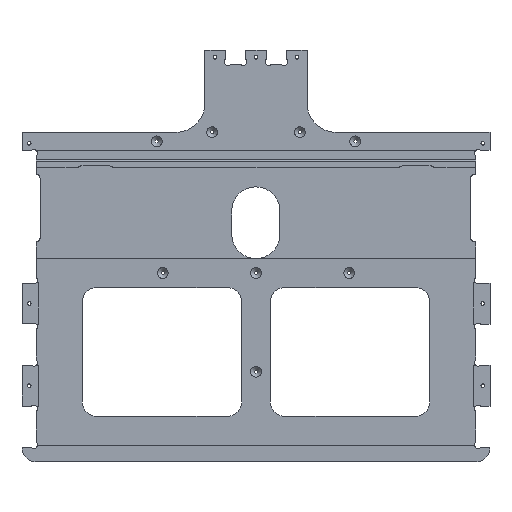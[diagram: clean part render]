
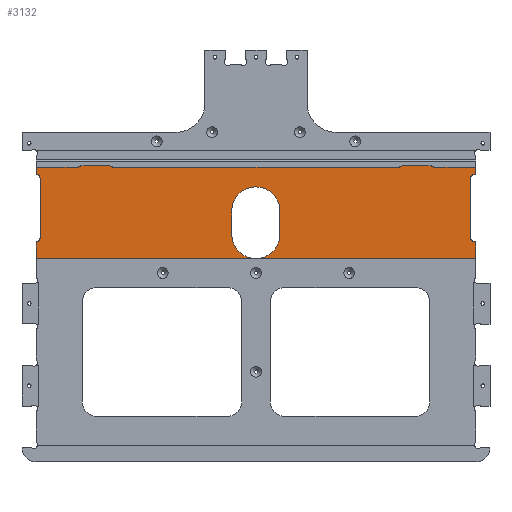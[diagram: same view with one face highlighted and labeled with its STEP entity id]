
A CAD part, top view. The second image highlights one B-rep face of the part: STEP entity #3132.
In plain terms, the highlighted planar face has unit normal (0, 0, 1).
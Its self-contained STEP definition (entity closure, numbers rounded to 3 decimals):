
#105=PLANE('',#3433);
#244=FACE_OUTER_BOUND('',#440,.T.);
#440=EDGE_LOOP('',(#2603,#2604,#2605,#2606,#2607,#2608,#2609,#2610,#2611,
#2612,#2613,#2614,#2615,#2616,#2617,#2618,#2619,#2620,#2621,#2622,#2623,
#2624,#2625,#2626,#2627,#2628,#2629,#2630,#2631,#2632));
#524=LINE('',#4466,#846);
#528=LINE('',#4473,#850);
#588=LINE('',#4702,#910);
#592=LINE('',#4716,#914);
#597=LINE('',#4729,#919);
#599=LINE('',#4732,#921);
#600=LINE('',#4735,#922);
#613=LINE('',#4759,#935);
#717=LINE('',#5092,#1039);
#721=LINE('',#5101,#1043);
#724=LINE('',#5108,#1046);
#727=LINE('',#5117,#1049);
#729=LINE('',#5122,#1051);
#735=LINE('',#5133,#1057);
#736=LINE('',#5136,#1058);
#739=LINE('',#5140,#1061);
#740=LINE('',#5141,#1062);
#741=LINE('',#5142,#1063);
#742=LINE('',#5143,#1064);
#846=VECTOR('',#3539,10.);
#850=VECTOR('',#3545,10.);
#910=VECTOR('',#3721,10.);
#914=VECTOR('',#3733,10.);
#919=VECTOR('',#3746,10.);
#921=VECTOR('',#3750,10.);
#922=VECTOR('',#3753,10.);
#935=VECTOR('',#3772,10.);
#1039=VECTOR('',#4114,10.);
#1043=VECTOR('',#4124,10.);
#1046=VECTOR('',#4133,10.);
#1049=VECTOR('',#4142,10.);
#1051=VECTOR('',#4146,10.);
#1057=VECTOR('',#4158,10.);
#1058=VECTOR('',#4161,10.);
#1061=VECTOR('',#4166,10.);
#1062=VECTOR('',#4167,10.);
#1063=VECTOR('',#4168,10.);
#1064=VECTOR('',#4169,10.);
#1166=CIRCLE('',#3225,20.);
#1167=CIRCLE('',#3226,20.);
#1219=CIRCLE('',#3282,3.);
#1221=CIRCLE('',#3285,3.);
#1223=CIRCLE('',#3289,3.);
#1225=CIRCLE('',#3293,3.);
#1273=CIRCLE('',#3372,20.);
#1287=CIRCLE('',#3420,3.);
#1288=CIRCLE('',#3423,3.);
#1289=CIRCLE('',#3426,3.);
#1290=CIRCLE('',#3430,3.);
#1307=VERTEX_POINT('',#4455);
#1308=VERTEX_POINT('',#4457);
#1309=VERTEX_POINT('',#4459);
#1311=VERTEX_POINT('',#4465);
#1313=VERTEX_POINT('',#4471);
#1419=VERTEX_POINT('',#4686);
#1420=VERTEX_POINT('',#4688);
#1423=VERTEX_POINT('',#4695);
#1424=VERTEX_POINT('',#4697);
#1427=VERTEX_POINT('',#4707);
#1428=VERTEX_POINT('',#4709);
#1430=VERTEX_POINT('',#4715);
#1432=VERTEX_POINT('',#4721);
#1434=VERTEX_POINT('',#4727);
#1435=VERTEX_POINT('',#4734);
#1443=VERTEX_POINT('',#4757);
#1552=VERTEX_POINT('',#5090);
#1553=VERTEX_POINT('',#5091);
#1554=VERTEX_POINT('',#5096);
#1555=VERTEX_POINT('',#5100);
#1556=VERTEX_POINT('',#5104);
#1557=VERTEX_POINT('',#5110);
#1558=VERTEX_POINT('',#5111);
#1559=VERTEX_POINT('',#5116);
#1560=VERTEX_POINT('',#5120);
#1561=VERTEX_POINT('',#5121);
#1562=VERTEX_POINT('',#5126);
#1563=VERTEX_POINT('',#5131);
#1564=VERTEX_POINT('',#5135);
#1609=EDGE_CURVE('',#1308,#1307,#1166,.T.);
#1610=EDGE_CURVE('',#1309,#1308,#1167,.T.);
#1613=EDGE_CURVE('',#1311,#1309,#524,.T.);
#1617=EDGE_CURVE('',#1307,#1313,#528,.T.);
#1724=EDGE_CURVE('',#1420,#1419,#1219,.T.);
#1728=EDGE_CURVE('',#1424,#1423,#1221,.T.);
#1731=EDGE_CURVE('',#1419,#1424,#588,.T.);
#1734=EDGE_CURVE('',#1428,#1427,#1223,.T.);
#1737=EDGE_CURVE('',#1428,#1430,#592,.T.);
#1740=EDGE_CURVE('',#1432,#1430,#1225,.T.);
#1744=EDGE_CURVE('',#1427,#1434,#597,.T.);
#1746=EDGE_CURVE('',#1423,#1432,#599,.T.);
#1747=EDGE_CURVE('',#1435,#1420,#600,.T.);
#1760=EDGE_CURVE('',#1434,#1443,#613,.T.);
#1880=EDGE_CURVE('',#1313,#1311,#1273,.T.);
#1925=EDGE_CURVE('',#1552,#1553,#717,.T.);
#1928=EDGE_CURVE('',#1553,#1554,#1287,.T.);
#1930=EDGE_CURVE('',#1554,#1555,#721,.T.);
#1932=EDGE_CURVE('',#1556,#1552,#1288,.T.);
#1934=EDGE_CURVE('',#1443,#1556,#724,.T.);
#1935=EDGE_CURVE('',#1557,#1558,#1289,.T.);
#1938=EDGE_CURVE('',#1558,#1559,#727,.T.);
#1940=EDGE_CURVE('',#1560,#1561,#729,.T.);
#1943=EDGE_CURVE('',#1561,#1562,#1290,.T.);
#1947=EDGE_CURVE('',#1555,#1563,#735,.T.);
#1948=EDGE_CURVE('',#1560,#1564,#736,.T.);
#1951=EDGE_CURVE('',#1308,#1564,#739,.T.);
#1952=EDGE_CURVE('',#1562,#1557,#740,.T.);
#1953=EDGE_CURVE('',#1435,#1559,#741,.T.);
#1954=EDGE_CURVE('',#1563,#1308,#742,.T.);
#2603=ORIENTED_EDGE('',*,*,#1617,.T.);
#2604=ORIENTED_EDGE('',*,*,#1880,.T.);
#2605=ORIENTED_EDGE('',*,*,#1613,.T.);
#2606=ORIENTED_EDGE('',*,*,#1610,.T.);
#2607=ORIENTED_EDGE('',*,*,#1951,.T.);
#2608=ORIENTED_EDGE('',*,*,#1948,.F.);
#2609=ORIENTED_EDGE('',*,*,#1940,.T.);
#2610=ORIENTED_EDGE('',*,*,#1943,.T.);
#2611=ORIENTED_EDGE('',*,*,#1952,.T.);
#2612=ORIENTED_EDGE('',*,*,#1935,.T.);
#2613=ORIENTED_EDGE('',*,*,#1938,.T.);
#2614=ORIENTED_EDGE('',*,*,#1953,.F.);
#2615=ORIENTED_EDGE('',*,*,#1747,.T.);
#2616=ORIENTED_EDGE('',*,*,#1724,.T.);
#2617=ORIENTED_EDGE('',*,*,#1731,.T.);
#2618=ORIENTED_EDGE('',*,*,#1728,.T.);
#2619=ORIENTED_EDGE('',*,*,#1746,.T.);
#2620=ORIENTED_EDGE('',*,*,#1740,.T.);
#2621=ORIENTED_EDGE('',*,*,#1737,.F.);
#2622=ORIENTED_EDGE('',*,*,#1734,.T.);
#2623=ORIENTED_EDGE('',*,*,#1744,.T.);
#2624=ORIENTED_EDGE('',*,*,#1760,.T.);
#2625=ORIENTED_EDGE('',*,*,#1934,.T.);
#2626=ORIENTED_EDGE('',*,*,#1932,.T.);
#2627=ORIENTED_EDGE('',*,*,#1925,.T.);
#2628=ORIENTED_EDGE('',*,*,#1928,.T.);
#2629=ORIENTED_EDGE('',*,*,#1930,.T.);
#2630=ORIENTED_EDGE('',*,*,#1947,.T.);
#2631=ORIENTED_EDGE('',*,*,#1954,.T.);
#2632=ORIENTED_EDGE('',*,*,#1609,.T.);
#3132=ADVANCED_FACE('',(#244),#105,.T.);
#3225=AXIS2_PLACEMENT_3D('',#4458,#3531,#3532);
#3226=AXIS2_PLACEMENT_3D('',#4460,#3533,#3534);
#3282=AXIS2_PLACEMENT_3D('',#4689,#3707,#3708);
#3285=AXIS2_PLACEMENT_3D('',#4698,#3715,#3716);
#3289=AXIS2_PLACEMENT_3D('',#4710,#3727,#3728);
#3293=AXIS2_PLACEMENT_3D('',#4722,#3739,#3740);
#3372=AXIS2_PLACEMENT_3D('',#4997,#3989,#3990);
#3420=AXIS2_PLACEMENT_3D('',#5097,#4119,#4120);
#3423=AXIS2_PLACEMENT_3D('',#5105,#4128,#4129);
#3426=AXIS2_PLACEMENT_3D('',#5112,#4136,#4137);
#3430=AXIS2_PLACEMENT_3D('',#5127,#4151,#4152);
#3433=AXIS2_PLACEMENT_3D('',#5139,#4164,#4165);
#3531=DIRECTION('center_axis',(0.,0.,-1.));
#3532=DIRECTION('ref_axis',(-1.,0.,0.));
#3533=DIRECTION('center_axis',(0.,0.,-1.));
#3534=DIRECTION('ref_axis',(-1.,0.,0.));
#3539=DIRECTION('',(0.,-1.,0.));
#3545=DIRECTION('',(0.,1.,0.));
#3707=DIRECTION('center_axis',(0.,0.,1.));
#3708=DIRECTION('ref_axis',(0.745,0.667,0.));
#3715=DIRECTION('center_axis',(0.,0.,1.));
#3716=DIRECTION('ref_axis',(0.,1.,0.));
#3721=DIRECTION('',(-1.,0.,0.));
#3727=DIRECTION('center_axis',(0.,0.,1.));
#3728=DIRECTION('ref_axis',(0.,1.,0.));
#3733=DIRECTION('',(1.,0.,0.));
#3739=DIRECTION('center_axis',(0.,0.,1.));
#3740=DIRECTION('ref_axis',(0.745,0.667,0.));
#3746=DIRECTION('',(-1.,0.,0.));
#3750=DIRECTION('',(-1.,0.,0.));
#3753=DIRECTION('',(-1.,0.,0.));
#3772=DIRECTION('',(0.,-1.,0.));
#3989=DIRECTION('center_axis',(0.,0.,-1.));
#3990=DIRECTION('ref_axis',(-1.,0.,0.));
#4114=DIRECTION('',(0.,-1.,0.));
#4119=DIRECTION('center_axis',(0.,0.,-1.));
#4120=DIRECTION('ref_axis',(1.,0.,0.));
#4124=DIRECTION('',(-1.,0.,0.));
#4128=DIRECTION('center_axis',(0.,0.,-1.));
#4129=DIRECTION('ref_axis',(0.,1.,0.));
#4133=DIRECTION('',(1.,0.,0.));
#4136=DIRECTION('center_axis',(0.,0.,-1.));
#4137=DIRECTION('ref_axis',(-1.,0.,0.));
#4142=DIRECTION('',(1.,0.,0.));
#4146=DIRECTION('',(-1.,0.,0.));
#4151=DIRECTION('center_axis',(0.,0.,-1.));
#4152=DIRECTION('ref_axis',(0.,-1.,0.));
#4158=DIRECTION('',(0.,-1.,0.));
#4161=DIRECTION('',(0.,-1.,0.));
#4164=DIRECTION('center_axis',(0.,0.,1.));
#4165=DIRECTION('ref_axis',(-1.,0.,0.));
#4166=DIRECTION('',(1.,0.,0.));
#4167=DIRECTION('',(0.,1.,0.));
#4168=DIRECTION('',(0.,-1.,0.));
#4169=DIRECTION('',(1.,0.,0.));
#4455=CARTESIAN_POINT('',(159.378,170.34,4.));
#4457=CARTESIAN_POINT('',(179.378,150.34,4.));
#4458=CARTESIAN_POINT('Origin',(179.378,170.34,4.));
#4459=CARTESIAN_POINT('',(199.378,170.34,4.));
#4460=CARTESIAN_POINT('Origin',(179.378,170.34,4.));
#4465=CARTESIAN_POINT('',(199.378,190.,4.));
#4466=CARTESIAN_POINT('',(199.378,189.17,4.));
#4471=CARTESIAN_POINT('',(159.378,190.,4.));
#4473=CARTESIAN_POINT('',(159.378,179.34,4.));
#4686=CARTESIAN_POINT('',(325.003,227.34,4.));
#4688=CARTESIAN_POINT('',(327.239,226.34,4.));
#4689=CARTESIAN_POINT('Origin',(325.003,224.34,4.));
#4695=CARTESIAN_POINT('',(298.767,226.34,4.));
#4697=CARTESIAN_POINT('',(301.003,227.34,4.));
#4698=CARTESIAN_POINT('Origin',(301.003,224.34,4.));
#4702=CARTESIAN_POINT('',(325.003,227.34,4.));
#4707=CARTESIAN_POINT('',(31.767,226.34,4.));
#4709=CARTESIAN_POINT('',(34.003,227.34,4.));
#4710=CARTESIAN_POINT('Origin',(34.003,224.34,4.));
#4715=CARTESIAN_POINT('',(58.003,227.34,4.));
#4716=CARTESIAN_POINT('',(34.003,227.34,4.));
#4721=CARTESIAN_POINT('',(60.239,226.34,4.));
#4722=CARTESIAN_POINT('Origin',(58.003,224.34,4.));
#4727=CARTESIAN_POINT('',(-2.997,226.34,4.));
#4729=CARTESIAN_POINT('',(360.003,226.34,4.));
#4732=CARTESIAN_POINT('',(360.003,226.34,4.));
#4734=CARTESIAN_POINT('',(362.003,226.34,4.));
#4735=CARTESIAN_POINT('',(360.003,226.34,4.));
#4757=CARTESIAN_POINT('',(-2.997,220.34,4.));
#4759=CARTESIAN_POINT('',(-2.997,204.34,4.));
#4997=CARTESIAN_POINT('Origin',(179.378,190.,4.));
#5090=CARTESIAN_POINT('',(0.003,217.34,4.));
#5091=CARTESIAN_POINT('',(0.003,167.34,4.));
#5092=CARTESIAN_POINT('',(0.003,177.84,4.));
#5096=CARTESIAN_POINT('',(-2.997,164.34,4.));
#5097=CARTESIAN_POINT('Origin',(-2.997,167.34,4.));
#5100=CARTESIAN_POINT('',(-2.997,164.34,4.));
#5101=CARTESIAN_POINT('',(88.253,164.343,4.));
#5104=CARTESIAN_POINT('',(-2.997,220.34,4.));
#5105=CARTESIAN_POINT('Origin',(-2.997,217.34,4.));
#5108=CARTESIAN_POINT('',(88.254,220.337,4.));
#5110=CARTESIAN_POINT('',(358.003,217.34,4.));
#5111=CARTESIAN_POINT('',(361.003,220.34,4.));
#5112=CARTESIAN_POINT('Origin',(361.003,217.34,4.));
#5116=CARTESIAN_POINT('',(362.003,220.34,4.));
#5117=CARTESIAN_POINT('',(270.753,220.34,4.));
#5120=CARTESIAN_POINT('',(362.003,164.34,4.));
#5121=CARTESIAN_POINT('',(361.003,164.34,4.));
#5122=CARTESIAN_POINT('',(270.253,164.34,4.));
#5126=CARTESIAN_POINT('',(358.003,167.34,4.));
#5127=CARTESIAN_POINT('Origin',(361.003,167.34,4.));
#5131=CARTESIAN_POINT('',(-2.997,150.34,4.));
#5133=CARTESIAN_POINT('',(-2.997,204.34,4.));
#5135=CARTESIAN_POINT('',(362.003,150.34,4.));
#5136=CARTESIAN_POINT('',(362.003,140.24,4.));
#5139=CARTESIAN_POINT('Origin',(179.503,188.34,4.));
#5140=CARTESIAN_POINT('',(-0.997,150.34,4.));
#5141=CARTESIAN_POINT('',(358.003,202.84,4.));
#5142=CARTESIAN_POINT('',(362.003,218.576,4.));
#5143=CARTESIAN_POINT('',(-0.997,150.34,4.));
